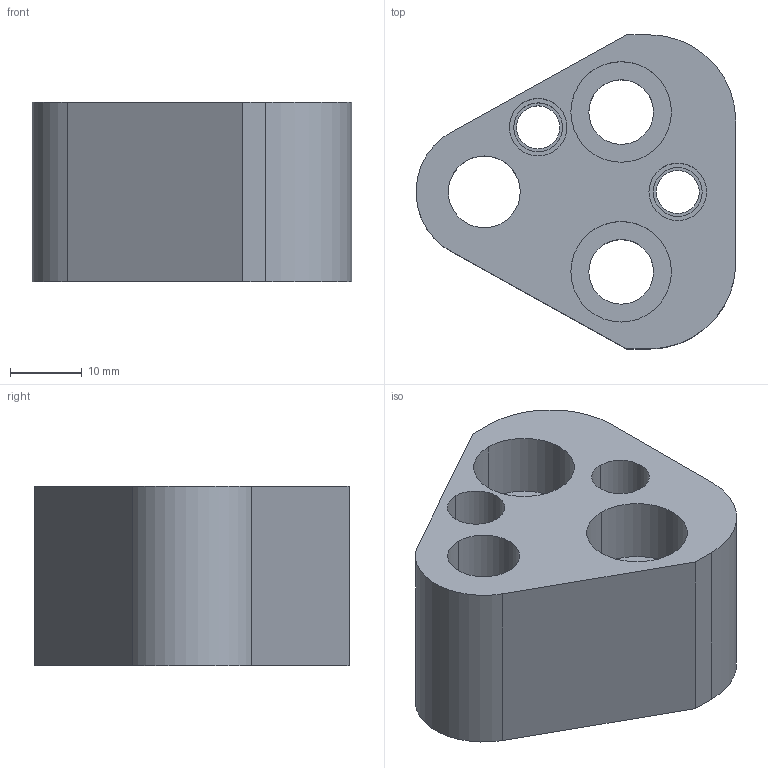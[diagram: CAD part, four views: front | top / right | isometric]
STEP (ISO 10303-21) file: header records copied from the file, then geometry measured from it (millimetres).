
FILE_DESCRIPTION(/* description */ (''),/* implementation_level */ '2;1');
FILE_NAME(/* name */ '3d_25crn-a10_03117_r00.stp',/* time_stamp */ '2011-01-10T14:17:55+09:00',/* author */ ('MISUMI'),/* organization */ (''),/* preprocessor_version */ 'ST-DEVELOPER v11',/* originating_system */ 'UGS - NX 5.0',/* authorisation */ '');
FILE_SCHEMA (('CONFIG_CONTROL_DESIGN'));
Length unit declared in the file: millimetre
Products named in the file (1): 3d_25crn-a10_03117_r00
Bounding box: 44.47 x 43.7 x 25 mm (x, y, z)
Volume: 25768.7 mm3; surface area: 9412.3 mm2
Topology: 1 solids, 1 shells, 43 faces, 100 edges, 66 vertices
Faces by surface type: cylinder 27, plane 14, cone 2
Entity records: 1360 total; most frequent: DIRECTION 244, CARTESIAN_POINT 210, ORIENTED_EDGE 200, EDGE_CURVE 100, AXIS2_PLACEMENT_3D 100, VERTEX_POINT 66, EDGE_LOOP 60, CIRCLE 56
